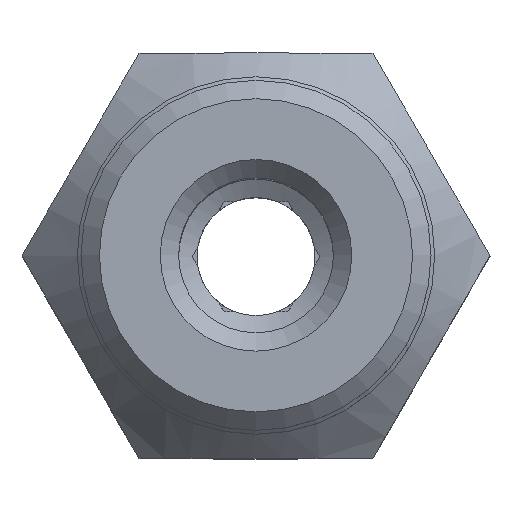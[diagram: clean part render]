
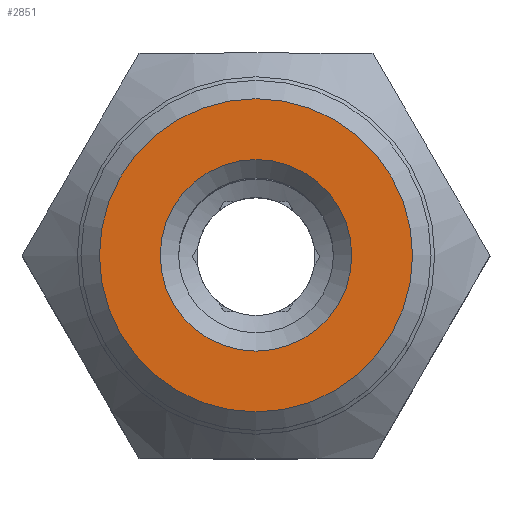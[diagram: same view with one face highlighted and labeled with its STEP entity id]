
A CAD part, top view. The second image highlights one B-rep face of the part: STEP entity #2851.
In plain terms, the highlighted planar face has unit normal (0, 0, 1) as drawn and (0, 1, 0) by its records, which use the part's own axes.
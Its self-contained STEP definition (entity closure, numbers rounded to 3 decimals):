
#1254=CIRCLE('',#2743,2.6);
#1255=CIRCLE('',#2745,4.25);
#1567=ORIENTED_EDGE('',*,*,#1809,.F.);
#1568=ORIENTED_EDGE('',*,*,#1808,.T.);
#1692=VERTEX_POINT('',#2586);
#1693=VERTEX_POINT('',#2589);
#1808=EDGE_CURVE('',#1692,#1692,#1254,.T.);
#1809=EDGE_CURVE('',#1693,#1693,#1255,.T.);
#1897=EDGE_LOOP('',(#1567));
#1898=EDGE_LOOP('',(#1568));
#1995=FACE_BOUND('',#1897,.T.);
#1996=FACE_BOUND('',#1898,.T.);
#2305=DIRECTION('',(0.,-1.,0.));
#2306=DIRECTION('',(0.,0.,-2.6));
#2307=DIRECTION('',(0.,1.,0.));
#2308=DIRECTION('',(1.,0.,0.));
#2309=DIRECTION('',(0.,-1.,0.));
#2310=DIRECTION('',(0.,0.,-4.25));
#2586=CARTESIAN_POINT('',(2.236,-59.268,0.));
#2587=CARTESIAN_POINT('',(-0.364,-59.268,0.));
#2588=CARTESIAN_POINT('',(-0.364,-59.268,0.));
#2589=CARTESIAN_POINT('',(3.886,-59.268,0.));
#2590=CARTESIAN_POINT('',(-0.364,-59.268,0.));
#2743=AXIS2_PLACEMENT_3D('',#2587,#2305,#2306);
#2744=AXIS2_PLACEMENT_3D('',#2588,#2307,#2308);
#2745=AXIS2_PLACEMENT_3D('',#2590,#2309,#2310);
#2793=PLANE('',#2744);
#2851=ADVANCED_FACE('',(#1995,#1996),#2793,.T.);
